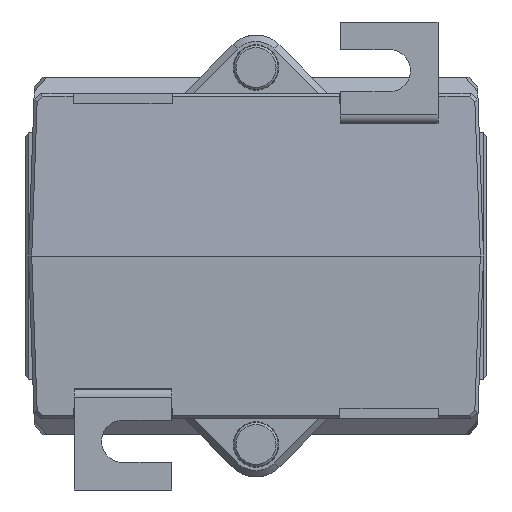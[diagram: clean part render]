
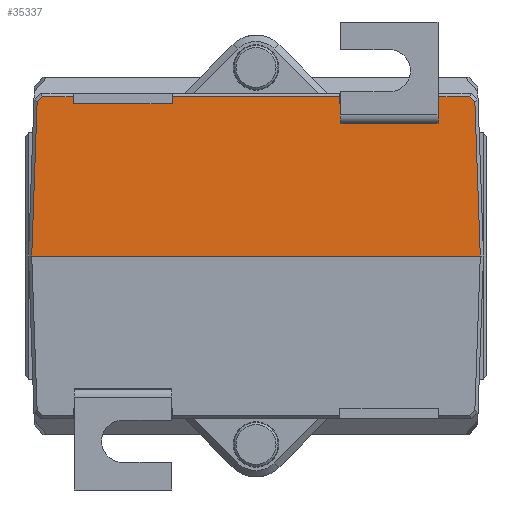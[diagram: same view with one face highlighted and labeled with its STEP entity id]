
A CAD part, front view. The second image highlights one B-rep face of the part: STEP entity #35337.
In plain terms, the highlighted planar face has unit normal (0, -0.999, 0.035).
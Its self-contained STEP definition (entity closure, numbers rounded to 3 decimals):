
#690=PLANE('',#37428);
#2288=FACE_OUTER_BOUND('',#4252,.T.);
#4252=EDGE_LOOP('',(#24742,#24743,#24744,#24745,#24746,#24747,#24748,#24749,
#24750,#24751,#24752,#24753,#24754,#24755,#24756,#24757,#24758,#24759));
#7549=LINE('',#52176,#11310);
#7553=LINE('',#52183,#11314);
#7960=LINE('',#54805,#11721);
#7961=LINE('',#54807,#11722);
#7962=LINE('',#54809,#11723);
#7963=LINE('',#54810,#11724);
#7964=LINE('',#54812,#11725);
#7965=LINE('',#54814,#11726);
#7966=LINE('',#54815,#11727);
#7967=LINE('',#54817,#11728);
#7968=LINE('',#54819,#11729);
#7969=LINE('',#54821,#11730);
#7970=LINE('',#54823,#11731);
#7971=LINE('',#54825,#11732);
#7972=LINE('',#54827,#11733);
#7973=LINE('',#54829,#11734);
#7974=LINE('',#54831,#11735);
#7975=LINE('',#54832,#11736);
#11310=VECTOR('',#40101,1000.);
#11314=VECTOR('',#40105,1000.);
#11721=VECTOR('',#40696,1000.);
#11722=VECTOR('',#40697,1000.);
#11723=VECTOR('',#40698,1000.);
#11724=VECTOR('',#40699,1000.);
#11725=VECTOR('',#40700,10.);
#11726=VECTOR('',#40701,10.);
#11727=VECTOR('',#40702,10.);
#11728=VECTOR('',#40703,1000.);
#11729=VECTOR('',#40704,1000.);
#11730=VECTOR('',#40705,1000.);
#11731=VECTOR('',#40706,1000.);
#11732=VECTOR('',#40707,1000.);
#11733=VECTOR('',#40708,1000.);
#11734=VECTOR('',#40709,1000.);
#11735=VECTOR('',#40710,1000.);
#11736=VECTOR('',#40711,1000.);
#15075=VERTEX_POINT('',#52169);
#15077=VERTEX_POINT('',#52173);
#15078=VERTEX_POINT('',#52175);
#15081=VERTEX_POINT('',#52181);
#15611=VERTEX_POINT('',#54803);
#15612=VERTEX_POINT('',#54804);
#15613=VERTEX_POINT('',#54806);
#15614=VERTEX_POINT('',#54808);
#15615=VERTEX_POINT('',#54811);
#15616=VERTEX_POINT('',#54813);
#15617=VERTEX_POINT('',#54816);
#15618=VERTEX_POINT('',#54818);
#15619=VERTEX_POINT('',#54820);
#15620=VERTEX_POINT('',#54822);
#15621=VERTEX_POINT('',#54824);
#15622=VERTEX_POINT('',#54826);
#15623=VERTEX_POINT('',#54828);
#15624=VERTEX_POINT('',#54830);
#18554=EDGE_CURVE('',#15078,#15077,#7549,.T.);
#18558=EDGE_CURVE('',#15075,#15081,#7553,.T.);
#19122=EDGE_CURVE('',#15611,#15612,#7960,.T.);
#19123=EDGE_CURVE('',#15612,#15613,#7961,.T.);
#19124=EDGE_CURVE('',#15613,#15614,#7962,.T.);
#19125=EDGE_CURVE('',#15078,#15614,#7963,.T.);
#19126=EDGE_CURVE('',#15615,#15077,#7964,.T.);
#19127=EDGE_CURVE('',#15616,#15615,#7965,.T.);
#19128=EDGE_CURVE('',#15075,#15616,#7966,.T.);
#19129=EDGE_CURVE('',#15617,#15081,#7967,.T.);
#19130=EDGE_CURVE('',#15617,#15618,#7968,.T.);
#19131=EDGE_CURVE('',#15619,#15618,#7969,.T.);
#19132=EDGE_CURVE('',#15620,#15619,#7970,.T.);
#19133=EDGE_CURVE('',#15621,#15620,#7971,.T.);
#19134=EDGE_CURVE('',#15621,#15622,#7972,.T.);
#19135=EDGE_CURVE('',#15622,#15623,#7973,.T.);
#19136=EDGE_CURVE('',#15623,#15624,#7974,.T.);
#19137=EDGE_CURVE('',#15611,#15624,#7975,.T.);
#24742=ORIENTED_EDGE('',*,*,#19122,.T.);
#24743=ORIENTED_EDGE('',*,*,#19123,.T.);
#24744=ORIENTED_EDGE('',*,*,#19124,.T.);
#24745=ORIENTED_EDGE('',*,*,#19125,.F.);
#24746=ORIENTED_EDGE('',*,*,#18554,.T.);
#24747=ORIENTED_EDGE('',*,*,#19126,.F.);
#24748=ORIENTED_EDGE('',*,*,#19127,.F.);
#24749=ORIENTED_EDGE('',*,*,#19128,.F.);
#24750=ORIENTED_EDGE('',*,*,#18558,.T.);
#24751=ORIENTED_EDGE('',*,*,#19129,.F.);
#24752=ORIENTED_EDGE('',*,*,#19130,.T.);
#24753=ORIENTED_EDGE('',*,*,#19131,.F.);
#24754=ORIENTED_EDGE('',*,*,#19132,.F.);
#24755=ORIENTED_EDGE('',*,*,#19133,.F.);
#24756=ORIENTED_EDGE('',*,*,#19134,.T.);
#24757=ORIENTED_EDGE('',*,*,#19135,.T.);
#24758=ORIENTED_EDGE('',*,*,#19136,.T.);
#24759=ORIENTED_EDGE('',*,*,#19137,.F.);
#35337=ADVANCED_FACE('',(#2288),#690,.T.);
#37428=AXIS2_PLACEMENT_3D('',#54802,#40694,#40695);
#40101=DIRECTION('',(-1.,0.,0.));
#40105=DIRECTION('',(-1.,0.,0.));
#40694=DIRECTION('center_axis',(0.,-0.999,
0.035));
#40695=DIRECTION('ref_axis',(0.,-0.035,-0.999));
#40696=DIRECTION('',(-0.035,0.035,0.999));
#40697=DIRECTION('',(-0.731,0.024,0.682));
#40698=DIRECTION('',(-1.,0.,0.));
#40699=DIRECTION('',(0.009,0.035,0.999));
#40700=DIRECTION('',(0.,0.035,0.999));
#40701=DIRECTION('',(1.,0.,0.));
#40702=DIRECTION('',(0.,-0.035,-0.999));
#40703=DIRECTION('',(0.009,-0.035,-0.999));
#40704=DIRECTION('',(-1.,0.,0.));
#40705=DIRECTION('',(0.009,0.035,0.999));
#40706=DIRECTION('',(1.,0.,0.));
#40707=DIRECTION('',(0.009,-0.035,-0.999));
#40708=DIRECTION('',(-1.,0.,0.));
#40709=DIRECTION('',(-0.731,-0.024,-0.682));
#40710=DIRECTION('',(-0.035,-0.035,-0.999));
#40711=DIRECTION('',(-1.,0.,0.));
#52169=CARTESIAN_POINT('',(13.,-35.933,23.4));
#52173=CARTESIAN_POINT('',(28.,-35.933,23.4));
#52175=CARTESIAN_POINT('',(28.108,-35.933,23.4));
#52176=CARTESIAN_POINT('',(-35.,-35.933,23.4));
#52181=CARTESIAN_POINT('',(12.892,-35.933,23.4));
#52183=CARTESIAN_POINT('',(-35.,-35.933,23.4));
#54802=CARTESIAN_POINT('Origin',(-35.,-36.75,0.));
#54803=CARTESIAN_POINT('',(34.499,-36.75,0.));
#54804=CARTESIAN_POINT('',(33.67,-35.92,23.758));
#54805=CARTESIAN_POINT('',(34.415,-36.665,2.421));
#54806=CARTESIAN_POINT('',(32.874,-35.894,24.5));
#54807=CARTESIAN_POINT('',(32.74,-35.89,24.625));
#54808=CARTESIAN_POINT('',(28.118,-35.894,24.5));
#54809=CARTESIAN_POINT('',(-33.09,-35.894,24.5));
#54810=CARTESIAN_POINT('',(27.899,-36.769,-0.548));
#54811=CARTESIAN_POINT('',(28.,-36.036,20.458));
#54812=CARTESIAN_POINT('',(28.,-36.122,17.978));
#54813=CARTESIAN_POINT('',(13.,-36.036,20.458));
#54814=CARTESIAN_POINT('',(-11.,-36.036,20.458));
#54815=CARTESIAN_POINT('',(13.,-36.122,17.978));
#54816=CARTESIAN_POINT('',(12.882,-35.894,24.5));
#54817=CARTESIAN_POINT('',(13.092,-36.735,0.419));
#54818=CARTESIAN_POINT('',(-12.882,-35.894,24.5));
#54819=CARTESIAN_POINT('',(-33.09,-35.894,24.5));
#54820=CARTESIAN_POINT('',(-12.892,-35.933,23.4));
#54821=CARTESIAN_POINT('',(-13.098,-36.757,-0.191));
#54822=CARTESIAN_POINT('',(-28.108,-35.933,23.4));
#54823=CARTESIAN_POINT('',(-35.,-35.933,23.4));
#54824=CARTESIAN_POINT('',(-28.118,-35.894,24.5));
#54825=CARTESIAN_POINT('',(-27.905,-36.748,0.062));
#54826=CARTESIAN_POINT('',(-32.874,-35.894,24.5));
#54827=CARTESIAN_POINT('',(-33.09,-35.894,24.5));
#54828=CARTESIAN_POINT('',(-33.669,-35.92,23.758));
#54829=CARTESIAN_POINT('',(-33.812,-35.925,23.626));
#54830=CARTESIAN_POINT('',(-34.499,-36.75,0.));
#54831=CARTESIAN_POINT('',(-34.5,-36.751,-0.017));
#54832=CARTESIAN_POINT('',(35.,-36.75,0.));
